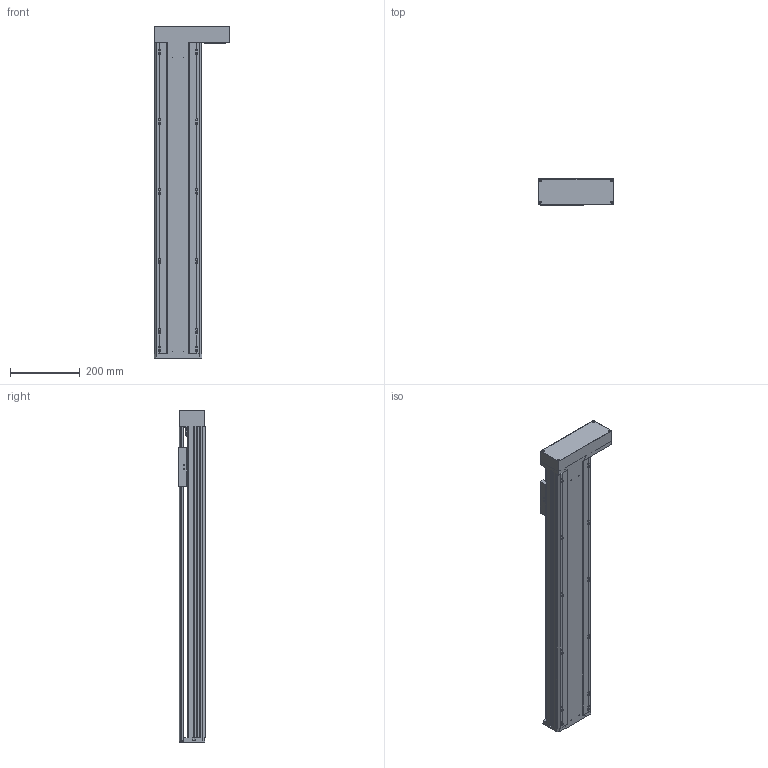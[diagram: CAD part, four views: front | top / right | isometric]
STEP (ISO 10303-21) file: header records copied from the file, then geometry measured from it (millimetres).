
FILE_DESCRIPTION(/* description */ (''),/* implementation_level */ '2;1');
FILE_NAME(/* name */ 'TKA136-FR-700_asm1.stp',/* time_stamp */ '2016-05-07T14:40:36+08:00',/* author */ (''),/* organization */ (''),/* preprocessor_version */ 'ST-DEVELOPER v15',/* originating_system */ 'SIEMENS PLM Software NX 8.5',/* authorisation */ '');
FILE_SCHEMA (('AUTOMOTIVE_DESIGN { 1 0 10303 214 3 1 1 1 }'));
Length unit declared in the file: millimetre
Products named in the file (3): 100-02; 100-01; TKA136-FR-700_asm1
Assembly tree (2 placements, depth 2):
  TKA136-FR-700_asm1
    100-01
    100-02
Bounding box: 216 x 75 x 950 mm (x, y, z)
Volume: 2986140 mm3; surface area: 1165014.5 mm2
Topology: 2 solids, 12 shells, 897 faces, 2554 edges, 1671 vertices
Faces by surface type: cylinder 427, plane 417, cone 53
Full cylindrical faces by diameter (mm): 2.5 x4, 3 x2, 3.3 x15, 4 x4, 4.2 x14, 4.5 x26, 5 x16, 5.5 x26, 6.6 x16, 8 x20, 10 x9, 10.5 x12, 11 x4, 11.6 x1, 12 x9, 15 x3, 16 x5, 17 x1, 24 x5, 26 x1, 28 x1, 46 x2, 50 x1
Entity records: 30153 total; most frequent: CARTESIAN_POINT 8066, DIRECTION 4577, ORIENTED_EDGE 4294, EDGE_CURVE 2147, AXIS2_PLACEMENT_3D 1745, VERTEX_POINT 1539, EDGE_LOOP 1323, LINE 1087
